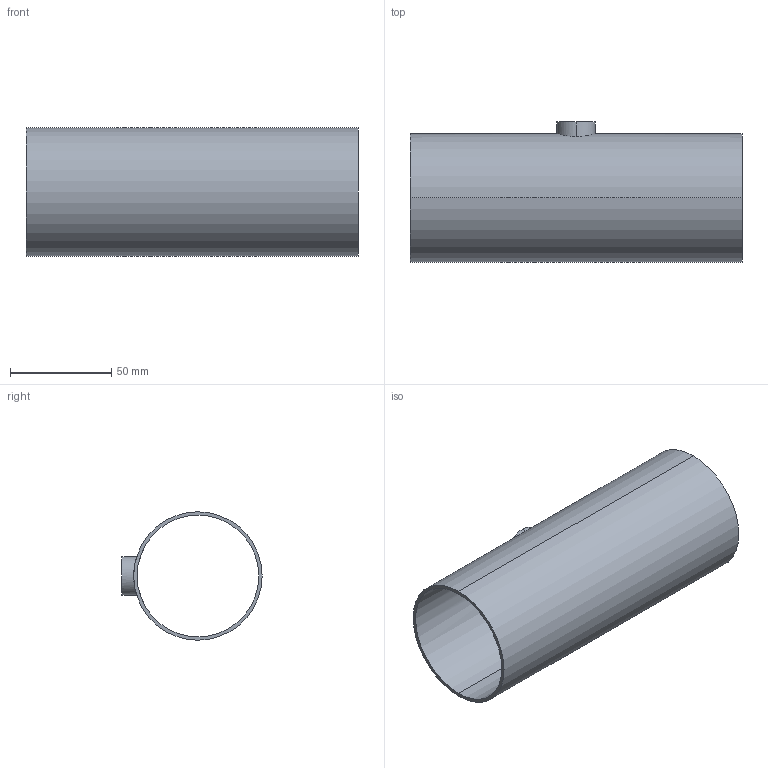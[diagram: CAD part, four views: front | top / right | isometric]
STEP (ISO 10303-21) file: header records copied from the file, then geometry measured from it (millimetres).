
FILE_DESCRIPTION (( 'STEP AP214' ), '1' );
FILE_NAME ('TEG7RS6L2.5x.75-...STEP', '2016-05-24T09:32:53', ( 'eran' ), ( '' ), 'SwSTEP 2.0', 'SolidWorks 2016', '' );
FILE_SCHEMA (( 'AUTOMOTIVE_DESIGN' ));
Length unit declared in the file: millimetre
Products named in the file (1): TEG7RS6L2.5x.75-..
Bounding box: 164.2 x 69.35 x 63.5 mm (x, y, z)
Volume: 52902.3 mm3; surface area: 64847.7 mm2
Topology: 1 solids, 1 shells, 11 faces, 24 edges, 16 vertices
Faces by surface type: cylinder 8, plane 3
Entity records: 524 total; most frequent: CARTESIAN_POINT 232, DIRECTION 56, ORIENTED_EDGE 48, AXIS2_PLACEMENT_3D 24, EDGE_CURVE 24, EDGE_LOOP 16, VERTEX_POINT 16, CIRCLE 12
